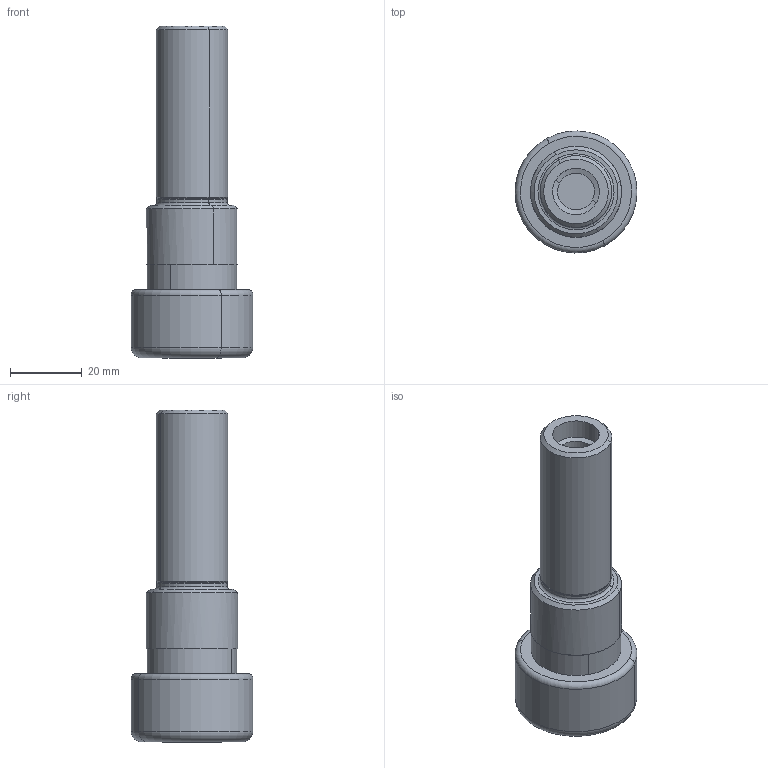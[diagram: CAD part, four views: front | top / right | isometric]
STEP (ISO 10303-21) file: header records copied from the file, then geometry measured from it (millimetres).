
FILE_DESCRIPTION(('CATIA V5 STEP','CAx-IF Rec.Pracs.--- Model Styling and Organization---1.2---2011-12-15'),'2;1');
FILE_NAME('\\nas01\drv1\utils\eitdev\rte\eit\transmagicconvert\db\out\635954524886751279\4507004 LM.stp','2016-04-05T08:28:22+00:00',('none'),('none'),'CATIA Version 5 Release 21 SP 5 (IN-10)','CATIA V5 STEP AP214','none');
FILE_SCHEMA(('AUTOMOTIVE_DESIGN { 1 0 10303 214 1 1 1 1 }'));
Length unit declared in the file: millimetre
Products named in the file (1): ST 20X 50 ER20 F
Bounding box: 33.99 x 33.99 x 92.55 mm (x, y, z)
Volume: 34157.8 mm3; surface area: 11059.4 mm2
Topology: 1 solids, 1 shells, 52 faces, 109 edges, 64 vertices
Faces by surface type: cylinder 20, cone 15, torus 8, plane 7, extrusion 2
Entity records: 1416 total; most frequent: CARTESIAN_POINT 382, ORIENTED_EDGE 218, DIRECTION 168, EDGE_CURVE 109, AXIS2_PLACEMENT_3D 97, VERTEX_POINT 64, CIRCLE 63, EDGE_LOOP 57
